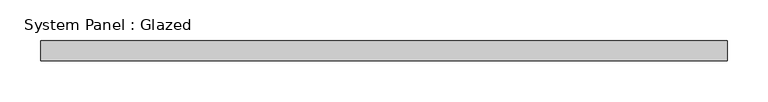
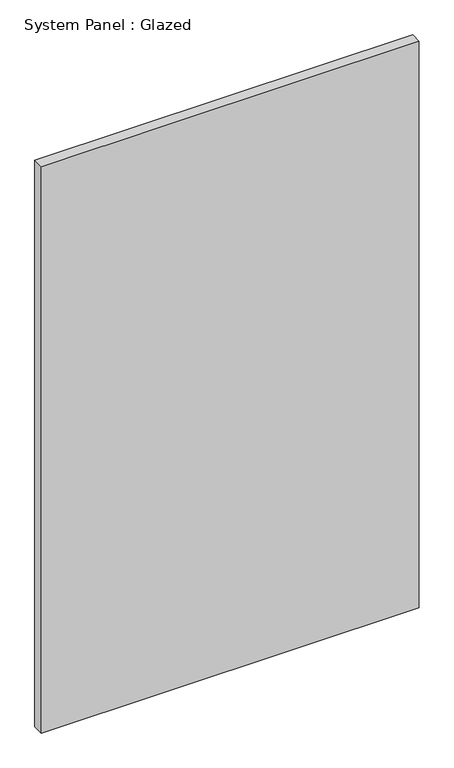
"""IFC4 building model written with IfcOpenShell, lengths in millimetres: plate geometry, System Panel : Glazed."""

from ifc_helpers import new_model, si_unit, origin, origin_with_axes, place, context, project, spatial, polyline, outline, extrude, source, transform, mapped, element, save


def system_panel_glazed_7c3f78ea(model_context):
    return source(origin(), model_context, "Body", "SweptSolid", [
        extrude(outline(polyline([(422.9736843, -49.5), (-422.9736843, -49.5), (-422.9736843, -24.5), (422.9736843, -24.5), (422.9736843, -49.5)])), origin_with_axes(), (0.0, 0.0, 1.0), 1340.0),
    ])


if __name__ == "__main__":
    model = new_model("IFC4")
    model_context = context("Model", 3, world=origin())
    ifc_project = project(units=[si_unit("LENGTHUNIT", "METRE", prefix="MILLI")], contexts=[model_context])
    site = spatial("IfcSite", under=ifc_project)
    building = spatial("IfcBuilding", under=site)
    placement = place(None, origin())
    system_panel_glazed_shape = system_panel_glazed_7c3f78ea(model_context)
    element("IfcPlate", 1, ObjectType="System Panel : Glazed", at=placement, inside=building, context=model_context, shape_type="MappedRepresentation", body=[
        mapped(system_panel_glazed_shape, transform((0.0, 0.0, 0.0), x_axis=(1.0, 0.0, 0.0), y_axis=(0.0, 1.0, 0.0), z_axis=(0.0, 0.0, 1.0))),
    ])
    save(model, "model.ifc")
